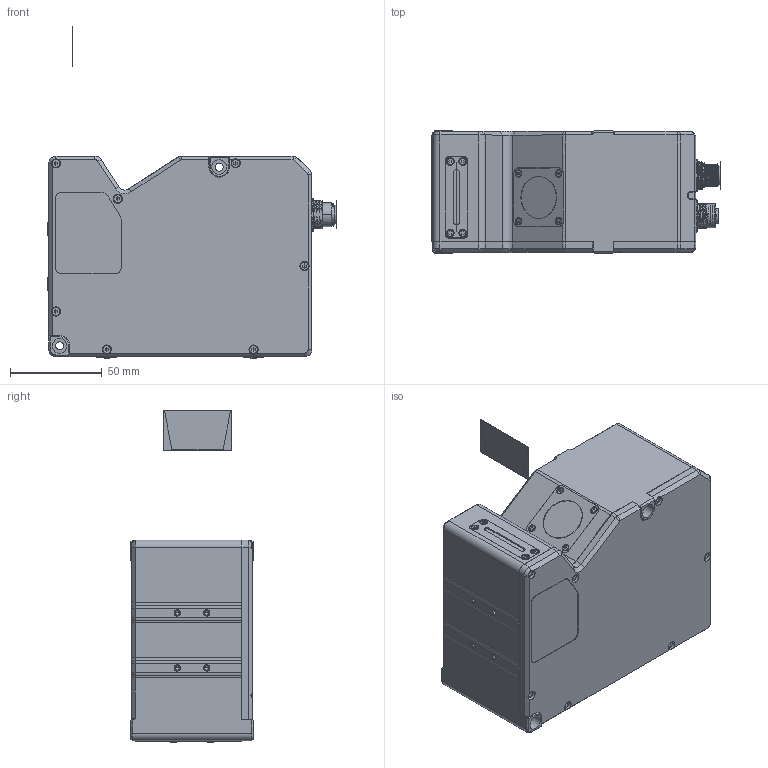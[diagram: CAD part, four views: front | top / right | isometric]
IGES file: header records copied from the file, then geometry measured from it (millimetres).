
Start section:  PTC IGES file: mv-dp4060-01p-0724.igs
Global section: file name: mv-dp4060-01p-0724.igs; native system: Creo Parametric by PTC Inc.; preprocessor: 2020044; author: wangminrui; organization: Unknown; date: 20250725.094559; units: millimetre
Bounding box: 157.49 x 67 x 181.04 mm (x, y, z)
Surface area: 75305.5 mm2 (no closed solid volume)
Topology: 0 solids, 0 shells, 947 faces, 8700 edges, 10391 vertices
Faces by surface type: revolution 534, bspline 413
